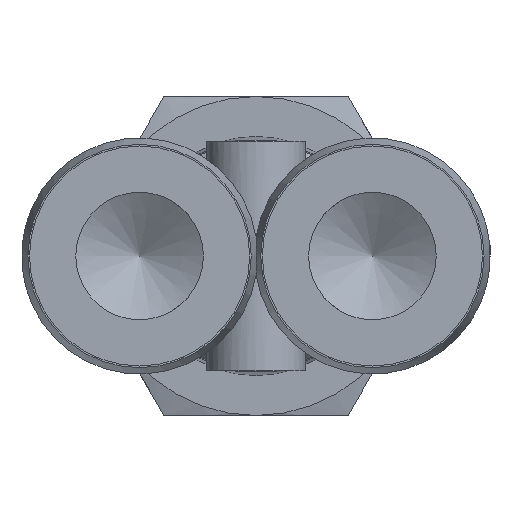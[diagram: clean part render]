
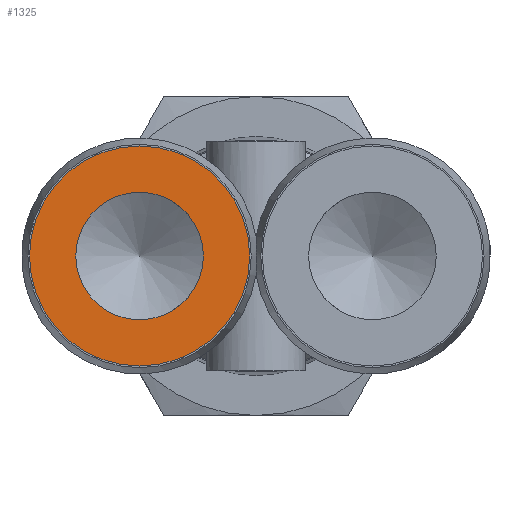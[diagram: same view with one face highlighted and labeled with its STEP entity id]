
A CAD part, front view. The second image highlights one B-rep face of the part: STEP entity #1325.
In plain terms, the highlighted planar face has unit normal (0, -1, 0).
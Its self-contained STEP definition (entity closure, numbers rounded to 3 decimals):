
#106=FACE_BOUND('',#258,.T.);
#124=PLANE('',#1480);
#177=FACE_OUTER_BOUND('',#257,.T.);
#257=EDGE_LOOP('',(#1081,#1082));
#258=EDGE_LOOP('',(#1083,#1084));
#434=CIRCLE('',#1437,4.);
#435=CIRCLE('',#1438,4.);
#459=CIRCLE('',#1478,6.9);
#460=CIRCLE('',#1479,6.9);
#560=VERTEX_POINT('',#2478);
#561=VERTEX_POINT('',#2479);
#589=VERTEX_POINT('',#2611);
#590=VERTEX_POINT('',#2612);
#724=EDGE_CURVE('',#560,#561,#434,.T.);
#725=EDGE_CURVE('',#561,#560,#435,.T.);
#767=EDGE_CURVE('',#589,#590,#459,.T.);
#769=EDGE_CURVE('',#590,#589,#460,.T.);
#1081=ORIENTED_EDGE('',*,*,#767,.F.);
#1082=ORIENTED_EDGE('',*,*,#769,.F.);
#1083=ORIENTED_EDGE('',*,*,#724,.T.);
#1084=ORIENTED_EDGE('',*,*,#725,.T.);
#1325=ADVANCED_FACE('',(#177,#106),#124,.F.);
#1437=AXIS2_PLACEMENT_3D('',#2480,#1688,#1689);
#1438=AXIS2_PLACEMENT_3D('',#2481,#1690,#1691);
#1478=AXIS2_PLACEMENT_3D('',#2613,#1784,#1785);
#1479=AXIS2_PLACEMENT_3D('',#2615,#1787,#1788);
#1480=AXIS2_PLACEMENT_3D('',#2616,#1789,#1790);
#1688=DIRECTION('center_axis',(0.,1.,0.));
#1689=DIRECTION('ref_axis',(1.,0.,0.));
#1690=DIRECTION('center_axis',(0.,1.,0.));
#1691=DIRECTION('ref_axis',(1.,0.,0.));
#1784=DIRECTION('center_axis',(0.,1.,0.));
#1785=DIRECTION('ref_axis',(-1.,0.,0.));
#1787=DIRECTION('center_axis',(0.,1.,0.));
#1788=DIRECTION('ref_axis',(-1.,0.,0.));
#1789=DIRECTION('center_axis',(0.,1.,0.));
#1790=DIRECTION('ref_axis',(0.,0.,-1.));
#2478=CARTESIAN_POINT('',(-3.3,-16.5,0.));
#2479=CARTESIAN_POINT('',(-11.3,-16.5,0.));
#2480=CARTESIAN_POINT('Origin',(-7.3,-16.5,0.));
#2481=CARTESIAN_POINT('Origin',(-7.3,-16.5,0.));
#2611=CARTESIAN_POINT('',(-14.2,-16.5,0.));
#2612=CARTESIAN_POINT('',(-0.4,-16.5,0.));
#2613=CARTESIAN_POINT('Origin',(-7.3,-16.5,0.));
#2615=CARTESIAN_POINT('Origin',(-7.3,-16.5,0.));
#2616=CARTESIAN_POINT('Origin',(-7.3,-16.5,0.));
